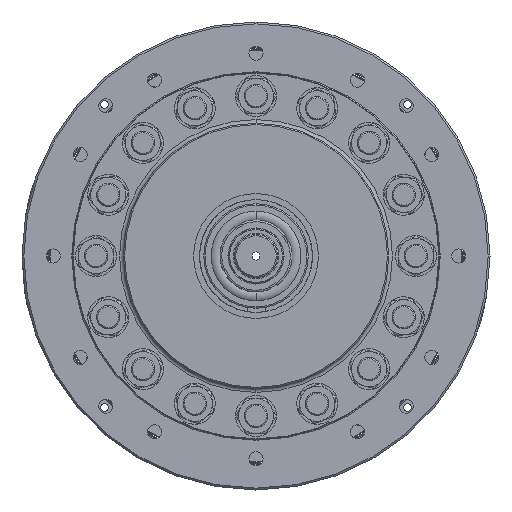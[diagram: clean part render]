
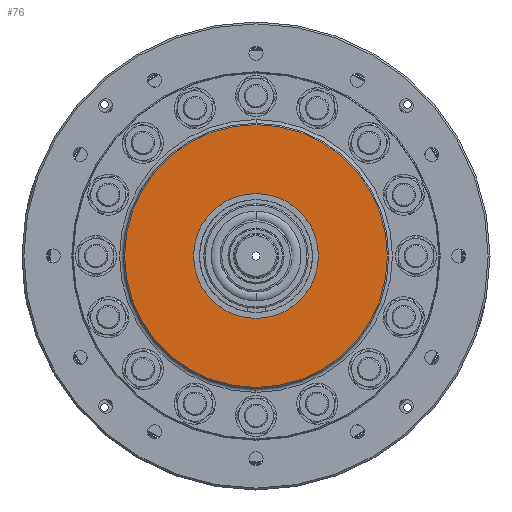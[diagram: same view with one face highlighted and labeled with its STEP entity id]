
A CAD part, left-side view. The second image highlights one B-rep face of the part: STEP entity #76.
In plain terms, the highlighted planar face has unit normal (-1, 0, 0).
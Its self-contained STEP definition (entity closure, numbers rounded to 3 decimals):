
#76 = ADVANCED_FACE ( 'NONE', ( #22280, #9369 ), #9149, .F. ) ;
#445 = DIRECTION ( 'NONE',  ( -1., 0., 0. ) ) ;
#1048 = EDGE_CURVE ( 'NONE', #42118, #24943, #25295, .T. ) ;
#1609 = DIRECTION ( 'NONE',  ( 0., 0., 1. ) ) ;
#2959 = CARTESIAN_POINT ( 'NONE',  ( 0., 0., -106.934 ) ) ;
#5546 = ORIENTED_EDGE ( 'NONE', *, *, #1048, .F. ) ;
#5619 = DIRECTION ( 'NONE',  ( 1., 0., 0. ) ) ;
#6674 = DIRECTION ( 'NONE',  ( -1., 0., 0. ) ) ;
#7116 = AXIS2_PLACEMENT_3D ( 'NONE', #37123, #6674, #27306 ) ;
#7148 = AXIS2_PLACEMENT_3D ( 'NONE', #24405, #445, #13993 ) ;
#7550 = ORIENTED_EDGE ( 'NONE', *, *, #39856, .T. ) ;
#7565 = DIRECTION ( 'NONE',  ( -1., 0., 0. ) ) ;
#8195 = DIRECTION ( 'NONE',  ( 0., 0., 1. ) ) ;
#9149 = PLANE ( 'NONE',  #14090 ) ;
#9369 = FACE_OUTER_BOUND ( 'NONE', #16832, .T. ) ;
#10267 = EDGE_CURVE ( 'NONE', #24943, #42118, #29093, .T. ) ;
#11552 = CARTESIAN_POINT ( 'NONE',  ( 0., 0., 0. ) ) ;
#12312 = VERTEX_POINT ( 'NONE', #41296 ) ;
#13986 = AXIS2_PLACEMENT_3D ( 'NONE', #24689, #7565, #1609 ) ;
#13993 = DIRECTION ( 'NONE',  ( 0., 0., 1. ) ) ;
#14090 = AXIS2_PLACEMENT_3D ( 'NONE', #35617, #5619, #22720 ) ;
#15061 = ORIENTED_EDGE ( 'NONE', *, *, #10267, .F. ) ;
#15653 = AXIS2_PLACEMENT_3D ( 'NONE', #11552, #38662, #8195 ) ;
#16832 = EDGE_LOOP ( 'NONE', ( #7550, #35658 ) ) ;
#22280 = FACE_BOUND ( 'NONE', #42546, .T. ) ;
#22720 = DIRECTION ( 'NONE',  ( 0., 0., -1. ) ) ;
#24405 = CARTESIAN_POINT ( 'NONE',  ( 0., 0., 0. ) ) ;
#24689 = CARTESIAN_POINT ( 'NONE',  ( 0., 0., 0. ) ) ;
#24943 = VERTEX_POINT ( 'NONE', #40594 ) ;
#25295 = CIRCLE ( 'NONE', #13986, 50.8 ) ;
#27306 = DIRECTION ( 'NONE',  ( 0., 0., 1. ) ) ;
#29093 = CIRCLE ( 'NONE', #7148, 50.8 ) ;
#29804 = CIRCLE ( 'NONE', #15653, 106.934 ) ;
#34064 = CIRCLE ( 'NONE', #7116, 106.934 ) ;
#34990 = VERTEX_POINT ( 'NONE', #2959 ) ;
#35617 = CARTESIAN_POINT ( 'NONE',  ( 0., 106.934, 0. ) ) ;
#35658 = ORIENTED_EDGE ( 'NONE', *, *, #39989, .T. ) ;
#37123 = CARTESIAN_POINT ( 'NONE',  ( 0., 0., 0. ) ) ;
#38662 = DIRECTION ( 'NONE',  ( -1., 0., 0. ) ) ;
#39323 = CARTESIAN_POINT ( 'NONE',  ( 0., 0., 50.8 ) ) ;
#39856 = EDGE_CURVE ( 'NONE', #34990, #12312, #34064, .T. ) ;
#39989 = EDGE_CURVE ( 'NONE', #12312, #34990, #29804, .T. ) ;
#40594 = CARTESIAN_POINT ( 'NONE',  ( 0., 0., -50.8 ) ) ;
#41296 = CARTESIAN_POINT ( 'NONE',  ( 0., 0., 106.934 ) ) ;
#42118 = VERTEX_POINT ( 'NONE', #39323 ) ;
#42546 = EDGE_LOOP ( 'NONE', ( #5546, #15061 ) ) ;
